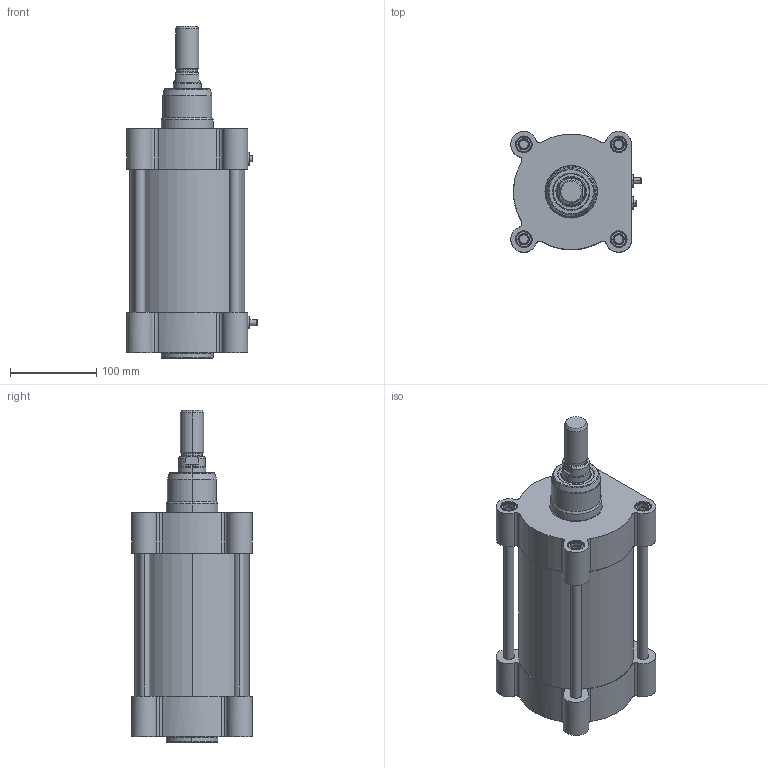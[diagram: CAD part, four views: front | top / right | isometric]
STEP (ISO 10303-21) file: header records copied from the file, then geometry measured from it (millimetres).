
FILE_DESCRIPTION (( 'STEP AP203' ), '1' );
FILE_NAME ('CTMI125-100.STEP', '2020-03-27T10:09:25', ( '' ), ( '' ), 'SwSTEP 2.0', 'SolidWorks 2019', '' );
FILE_SCHEMA (( 'CONFIG_CONTROL_DESIGN' ));
Length unit declared in the file: millimetre
Products named in the file (1): CTMI125-100
Bounding box: 151.1 x 140 x 385 mm (x, y, z)
Surface area: 403543.5 mm2 (no closed solid volume)
Topology: 0 solids, 23 shells, 767 faces, 1776 edges, 1092 vertices
Faces by surface type: cone 284, cylinder 218, plane 193, torus 56, bspline 16
Entity records: 35882 total; most frequent: CARTESIAN_POINT 20959, ORIENTED_EDGE 3504, DIRECTION 2178, EDGE_CURVE 1776, B_SPLINE_CURVE_WITH_KNOTS 1176, VERTEX_POINT 1092, AXIS2_PLACEMENT_3D 874, EDGE_LOOP 860
